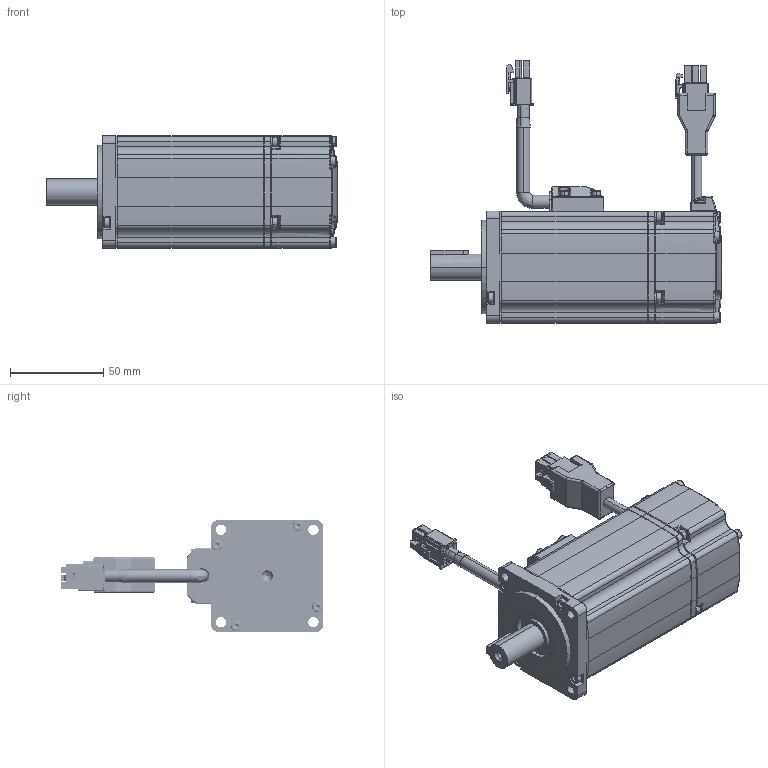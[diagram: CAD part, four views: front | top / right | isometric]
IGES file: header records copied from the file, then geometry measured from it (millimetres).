
Start section: SolidWorks IGES file using analytic representation for surfaces
Bounding box: 155.5 x 140.49 x 60 mm (x, y, z)
Surface area: 105660.6 mm2 (no closed solid volume)
Topology: 0 solids, 0 shells, 2513 faces, 26037 edges, 25922 vertices
Faces by surface type: bspline 1505, revolution 1008
